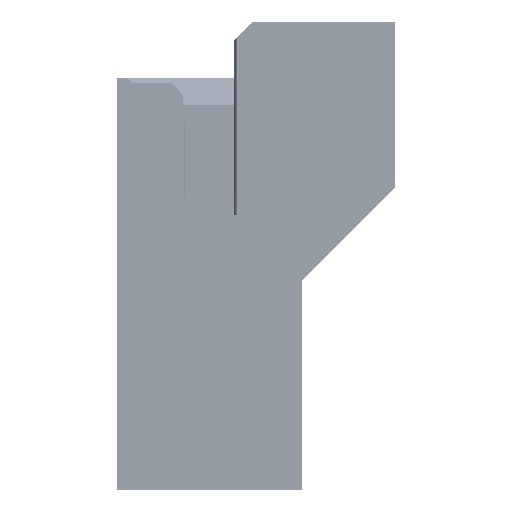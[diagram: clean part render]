
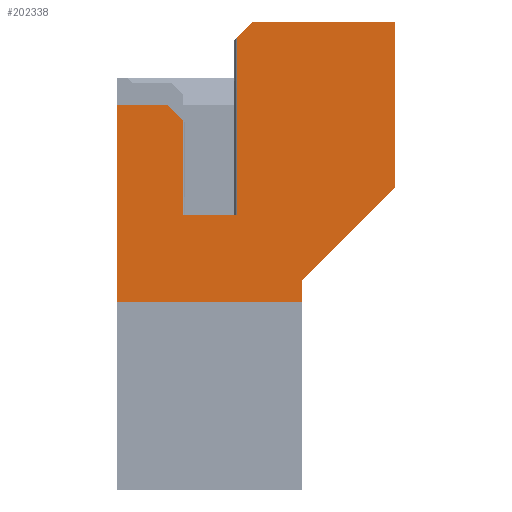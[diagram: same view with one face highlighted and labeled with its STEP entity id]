
A CAD part, left-side view. The second image highlights one B-rep face of the part: STEP entity #202338.
In plain terms, the highlighted planar face has unit normal (-1, 0, 0).
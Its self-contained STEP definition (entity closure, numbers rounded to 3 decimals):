
#1447=DIRECTION('',(0.,0.707,0.707));
#1448=VECTOR('',#1447,0.707);
#1449=CARTESIAN_POINT('',(2.28,6.885,-3.2));
#1450=LINE('',#1449,#1448);
#1451=DIRECTION('',(0.,0.707,-0.707));
#1452=VECTOR('',#1451,0.707);
#1453=CARTESIAN_POINT('',(2.28,4.615,0.));
#1454=LINE('',#1453,#1452);
#1455=DIRECTION('',(0.,-0.707,0.707));
#1456=VECTOR('',#1455,4.243);
#1457=CARTESIAN_POINT('',(2.28,3.,-8.4));
#1458=LINE('',#1457,#1456);
#1459=DIRECTION('',(0.,0.,1.));
#1460=VECTOR('',#1459,0.7);
#1461=CARTESIAN_POINT('',(2.28,3.,-9.1));
#1462=LINE('',#1461,#1460);
#1463=DIRECTION('',(0.,0.,-1.));
#1464=VECTOR('',#1463,6.4);
#1465=CARTESIAN_POINT('',(2.28,9.,-2.7));
#1466=LINE('',#1465,#1464);
#1502=DIRECTION('',(0.,-1.,0.));
#1503=VECTOR('',#1502,1.77);
#1504=CARTESIAN_POINT('',(2.28,6.885,-6.28));
#1505=LINE('',#1504,#1503);
#26976=DIRECTION('',(0.,1.,0.));
#26977=VECTOR('',#26976,6.);
#26978=CARTESIAN_POINT('',(2.28,3.,-9.1));
#26979=LINE('',#26978,#26977);
#148010=DIRECTION('',(0.,0.,1.));
#148011=VECTOR('',#148010,5.78);
#148012=CARTESIAN_POINT('',(2.28,5.115,-6.28));
#148013=LINE('',#148012,#148011);
#148654=DIRECTION('',(0.,1.,0.));
#148655=VECTOR('',#148654,4.615);
#148656=CARTESIAN_POINT('',(2.28,0.,0.));
#148657=LINE('',#148656,#148655);
#148666=DIRECTION('',(0.,0.,1.));
#148667=VECTOR('',#148666,5.4);
#148668=CARTESIAN_POINT('',(2.28,0.,-5.4));
#148669=LINE('',#148668,#148667);
#148759=DIRECTION('',(0.,0.,-1.));
#148760=VECTOR('',#148759,3.08);
#148761=CARTESIAN_POINT('',(2.28,6.885,-3.2));
#148762=LINE('',#148761,#148760);
#148805=DIRECTION('',(0.,-1.,0.));
#148806=VECTOR('',#148805,1.615);
#148807=CARTESIAN_POINT('',(2.28,9.,-2.7));
#148808=LINE('',#148807,#148806);
#163012=CARTESIAN_POINT('',(2.28,9.,-2.7));
#163013=VERTEX_POINT('',#163012);
#163014=CARTESIAN_POINT('',(2.28,9.,-9.1));
#163015=VERTEX_POINT('',#163014);
#163496=CARTESIAN_POINT('',(2.28,3.,-8.4));
#163498=VERTEX_POINT('',#163496);
#163525=CARTESIAN_POINT('',(2.28,3.,-9.1));
#163526=VERTEX_POINT('',#163525);
#164183=CARTESIAN_POINT('',(2.28,0.,-5.4));
#164184=VERTEX_POINT('',#164183);
#164187=CARTESIAN_POINT('',(2.28,6.885,-3.2));
#164188=CARTESIAN_POINT('',(2.28,7.385,-2.7));
#164189=VERTEX_POINT('',#164187);
#164190=VERTEX_POINT('',#164188);
#164191=CARTESIAN_POINT('',(2.28,6.885,-6.28));
#164192=VERTEX_POINT('',#164191);
#164193=CARTESIAN_POINT('',(2.28,5.115,-6.28));
#164194=VERTEX_POINT('',#164193);
#164195=CARTESIAN_POINT('',(2.28,5.115,-0.5));
#164196=VERTEX_POINT('',#164195);
#164197=CARTESIAN_POINT('',(2.28,4.615,0.));
#164198=VERTEX_POINT('',#164197);
#164199=CARTESIAN_POINT('',(2.28,0.,0.));
#164200=VERTEX_POINT('',#164199);
#202310=CARTESIAN_POINT('',(2.28,4.5,-4.55));
#202311=DIRECTION('',(1.,0.,0.));
#202312=DIRECTION('',(0.,-1.,0.));
#202313=AXIS2_PLACEMENT_3D('',#202310,#202311,#202312);
#202314=PLANE('',#202313);
#202316=ORIENTED_EDGE('',*,*,#202315,.F.);
#202318=ORIENTED_EDGE('',*,*,#202317,.T.);
#202320=ORIENTED_EDGE('',*,*,#202319,.T.);
#202322=ORIENTED_EDGE('',*,*,#202321,.T.);
#202324=ORIENTED_EDGE('',*,*,#202323,.F.);
#202326=ORIENTED_EDGE('',*,*,#202325,.F.);
#202328=ORIENTED_EDGE('',*,*,#202327,.F.);
#202329=ORIENTED_EDGE('',*,*,#202300,.F.);
#202330=ORIENTED_EDGE('',*,*,#201554,.F.);
#202332=ORIENTED_EDGE('',*,*,#202331,.T.);
#202333=ORIENTED_EDGE('',*,*,#200737,.F.);
#202335=ORIENTED_EDGE('',*,*,#202334,.T.);
#202336=EDGE_LOOP('',(#202316,#202318,#202320,#202322,#202324,#202326,#202328,
#202329,#202330,#202332,#202333,#202335));
#202337=FACE_OUTER_BOUND('',#202336,.F.);
#202338=ADVANCED_FACE('',(#202337),#202314,.F.);
#200737=EDGE_CURVE('',#163013,#163015,#1466,.T.);
#201554=EDGE_CURVE('',#163526,#163498,#1462,.T.);
#202300=EDGE_CURVE('',#163498,#164184,#1458,.T.);
#202315=EDGE_CURVE('',#164189,#164190,#1450,.T.);
#202317=EDGE_CURVE('',#164189,#164192,#148762,.T.);
#202319=EDGE_CURVE('',#164192,#164194,#1505,.T.);
#202321=EDGE_CURVE('',#164194,#164196,#148013,.T.);
#202323=EDGE_CURVE('',#164198,#164196,#1454,.T.);
#202325=EDGE_CURVE('',#164200,#164198,#148657,.T.);
#202327=EDGE_CURVE('',#164184,#164200,#148669,.T.);
#202331=EDGE_CURVE('',#163526,#163015,#26979,.T.);
#202334=EDGE_CURVE('',#163013,#164190,#148808,.T.);
